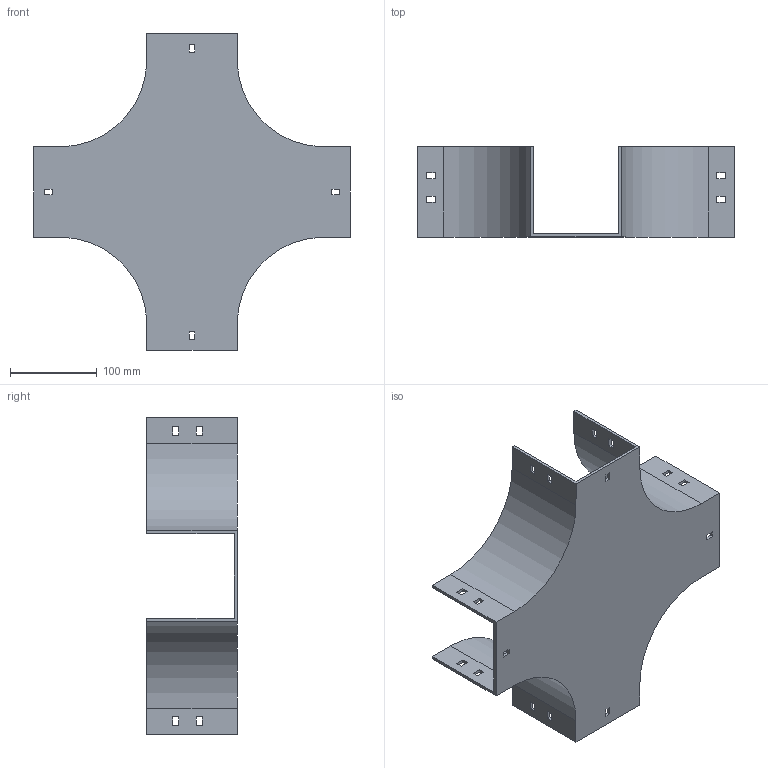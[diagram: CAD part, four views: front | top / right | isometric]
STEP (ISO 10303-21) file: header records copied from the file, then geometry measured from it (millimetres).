
FILE_DESCRIPTION (( 'STEP AP214' ), '1' );
FILE_NAME ('17F1D100.step', '2025-02-21T13:05:03', ( '' ), ( '' ), 'SwSTEP 2.0', 'SolidWorks 2023', '' );
FILE_SCHEMA (( 'AUTOMOTIVE_DESIGN' ));
Length unit declared in the file: millimetre
Products named in the file (1): 17F1D100
Bounding box: 364 x 104 x 364 mm (x, y, z)
Volume: 561740 mm3; surface area: 330641.4 mm2
Topology: 1 solids, 1 shells, 114 faces, 336 edges, 224 vertices
Faces by surface type: plane 106, cylinder 8
Entity records: 3839 total; most frequent: CARTESIAN_POINT 675, ORIENTED_EDGE 672, DIRECTION 582, EDGE_CURVE 336, LINE 320, VECTOR 320, VERTEX_POINT 224, EDGE_LOOP 154
